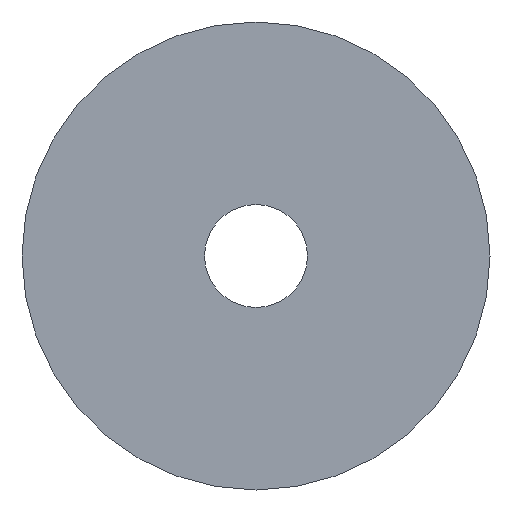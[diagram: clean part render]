
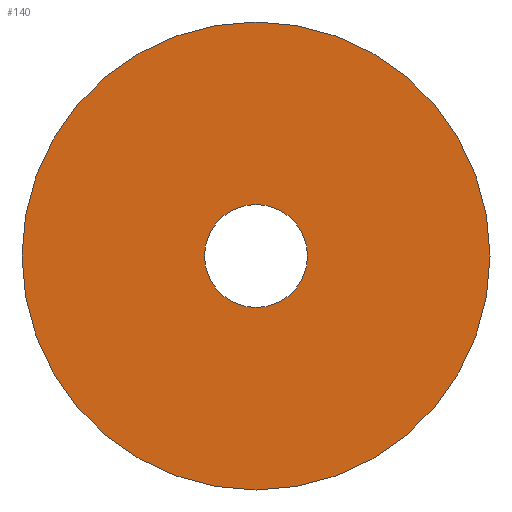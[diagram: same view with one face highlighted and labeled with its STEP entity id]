
A CAD part, front view. The second image highlights one B-rep face of the part: STEP entity #140.
In plain terms, the highlighted planar face has unit normal (0, -1, 0).
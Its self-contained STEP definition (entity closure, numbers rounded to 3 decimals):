
#31 = CYLINDRICAL_SURFACE('',#32,50.);
#32 = AXIS2_PLACEMENT_3D('',#33,#34,#35);
#33 = CARTESIAN_POINT('',(80.,35.5,-95.263));
#34 = DIRECTION('',(0.,1.,0.));
#35 = DIRECTION('',(0.,-0.,1.));
#56 = VERTEX_POINT('',#57);
#57 = CARTESIAN_POINT('',(80.,35.5,-45.263));
#78 = EDGE_CURVE('',#56,#56,#79,.T.);
#79 = SURFACE_CURVE('',#80,(#85,#92),.PCURVE_S1.);
#80 = CIRCLE('',#81,50.);
#81 = AXIS2_PLACEMENT_3D('',#82,#83,#84);
#82 = CARTESIAN_POINT('',(80.,35.5,-95.263));
#83 = DIRECTION('',(0.,1.,0.));
#84 = DIRECTION('',(0.,-0.,1.));
#85 = PCURVE('',#31,#86);
#86 = DEFINITIONAL_REPRESENTATION('',(#87),#91);
#87 = LINE('',#88,#89);
#88 = CARTESIAN_POINT('',(0.,0.));
#89 = VECTOR('',#90,1.);
#90 = DIRECTION('',(1.,0.));
#91 = ( GEOMETRIC_REPRESENTATION_CONTEXT(2) 
PARAMETRIC_REPRESENTATION_CONTEXT() REPRESENTATION_CONTEXT('2D SPACE',''
  ) );
#92 = PCURVE('',#93,#98);
#93 = PLANE('',#94);
#94 = AXIS2_PLACEMENT_3D('',#95,#96,#97);
#95 = CARTESIAN_POINT('',(80.,35.5,-95.263));
#96 = DIRECTION('',(0.,1.,0.));
#97 = DIRECTION('',(0.,-0.,1.));
#98 = DEFINITIONAL_REPRESENTATION('',(#99),#103);
#99 = CIRCLE('',#100,50.);
#100 = AXIS2_PLACEMENT_2D('',#101,#102);
#101 = CARTESIAN_POINT('',(0.,0.));
#102 = DIRECTION('',(1.,0.));
#103 = ( GEOMETRIC_REPRESENTATION_CONTEXT(2) 
PARAMETRIC_REPRESENTATION_CONTEXT() REPRESENTATION_CONTEXT('2D SPACE',''
  ) );
#129 = CYLINDRICAL_SURFACE('',#130,11.);
#130 = AXIS2_PLACEMENT_3D('',#131,#132,#133);
#131 = CARTESIAN_POINT('',(80.,35.5,-95.263));
#132 = DIRECTION('',(0.,1.,0.));
#133 = DIRECTION('',(0.,-0.,1.));
#140 = ADVANCED_FACE('',(#141,#144),#93,.F.);
#141 = FACE_BOUND('',#142,.F.);
#142 = EDGE_LOOP('',(#143));
#143 = ORIENTED_EDGE('',*,*,#78,.T.);
#144 = FACE_BOUND('',#145,.F.);
#145 = EDGE_LOOP('',(#146));
#146 = ORIENTED_EDGE('',*,*,#147,.F.);
#147 = EDGE_CURVE('',#148,#148,#150,.T.);
#148 = VERTEX_POINT('',#149);
#149 = CARTESIAN_POINT('',(80.,35.5,-84.263));
#150 = SURFACE_CURVE('',#151,(#156,#163),.PCURVE_S1.);
#151 = CIRCLE('',#152,11.);
#152 = AXIS2_PLACEMENT_3D('',#153,#154,#155);
#153 = CARTESIAN_POINT('',(80.,35.5,-95.263));
#154 = DIRECTION('',(0.,1.,0.));
#155 = DIRECTION('',(0.,-0.,1.));
#156 = PCURVE('',#93,#157);
#157 = DEFINITIONAL_REPRESENTATION('',(#158),#162);
#158 = CIRCLE('',#159,11.);
#159 = AXIS2_PLACEMENT_2D('',#160,#161);
#160 = CARTESIAN_POINT('',(0.,0.));
#161 = DIRECTION('',(1.,0.));
#162 = ( GEOMETRIC_REPRESENTATION_CONTEXT(2) 
PARAMETRIC_REPRESENTATION_CONTEXT() REPRESENTATION_CONTEXT('2D SPACE',''
  ) );
#163 = PCURVE('',#129,#164);
#164 = DEFINITIONAL_REPRESENTATION('',(#165),#169);
#165 = LINE('',#166,#167);
#166 = CARTESIAN_POINT('',(0.,0.));
#167 = VECTOR('',#168,1.);
#168 = DIRECTION('',(1.,0.));
#169 = ( GEOMETRIC_REPRESENTATION_CONTEXT(2) 
PARAMETRIC_REPRESENTATION_CONTEXT() REPRESENTATION_CONTEXT('2D SPACE',''
  ) );
